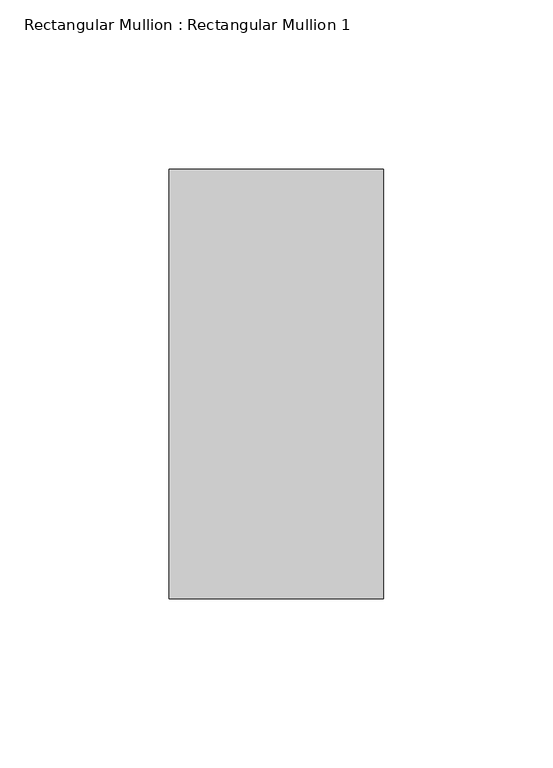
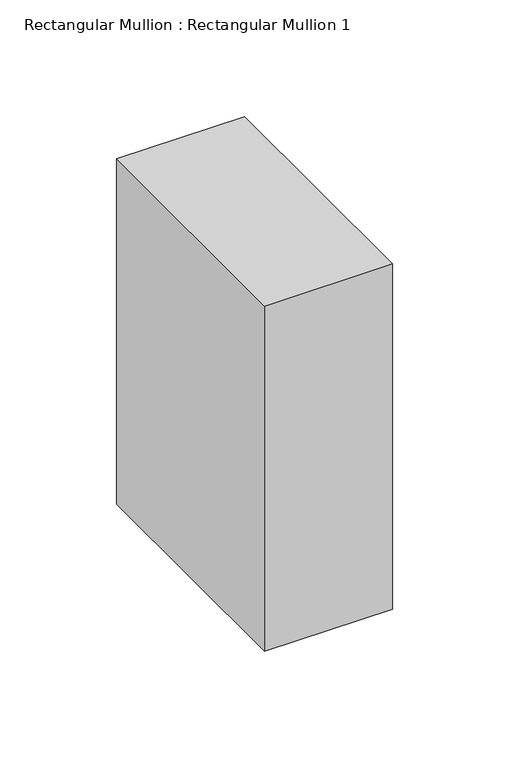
"""IFC4 building model written with IfcOpenShell, lengths in millimetres: member geometry, Rectangular Mullion : Rectangular Mullion 1."""

from ifc_helpers import new_model, si_unit, frame, origin, place, context, project, spatial, polyline, outline, extrude, source, transform, mapped, element, save


def rectangular_mullion_rectangular_mullion_1_31744042(model_context):
    return source(origin(), model_context, "Body", "SweptSolid", [
        extrude(outline(polyline([(31.75, 63.5), (31.75, -63.5), (-31.75, -63.5), (-31.75, 63.5), (31.75, 63.5)])), frame((0.0, 0.0, -180.9419949), z_axis=(0.0, 0.0, 1.0), x_axis=(1.0, 0.0, 0.0)), (0.0, 0.0, 1.0), 180.9419949),
    ])


if __name__ == "__main__":
    model = new_model("IFC4")
    model_context = context("Model", 3, world=origin())
    ifc_project = project(units=[si_unit("LENGTHUNIT", "METRE", prefix="MILLI")], contexts=[model_context])
    site = spatial("IfcSite", under=ifc_project)
    building = spatial("IfcBuilding", under=site)
    placement = place(None, origin())
    rectangular_mullion_rectangular_mullion_1_shape = rectangular_mullion_rectangular_mullion_1_31744042(model_context)
    element("IfcMember", 1, ObjectType="Rectangular Mullion : Rectangular Mullion 1", at=placement, inside=building, context=model_context, shape_type="MappedRepresentation", body=[
        mapped(rectangular_mullion_rectangular_mullion_1_shape, transform((0.0, 0.0, 0.0), x_axis=(1.0, 0.0, 0.0), y_axis=(0.0, 1.0, 0.0), z_axis=(0.0, 0.0, 1.0))),
    ])
    save(model, "model.ifc")
